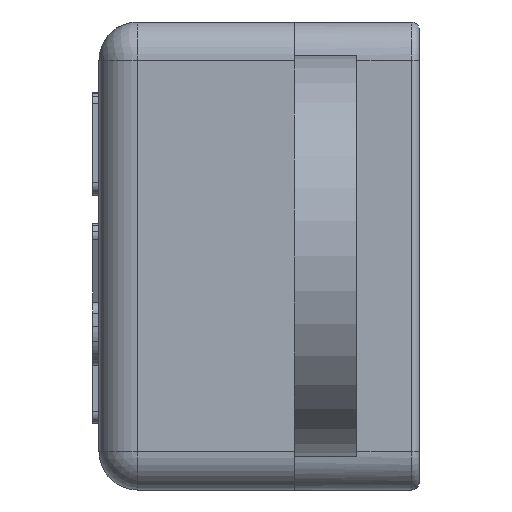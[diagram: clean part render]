
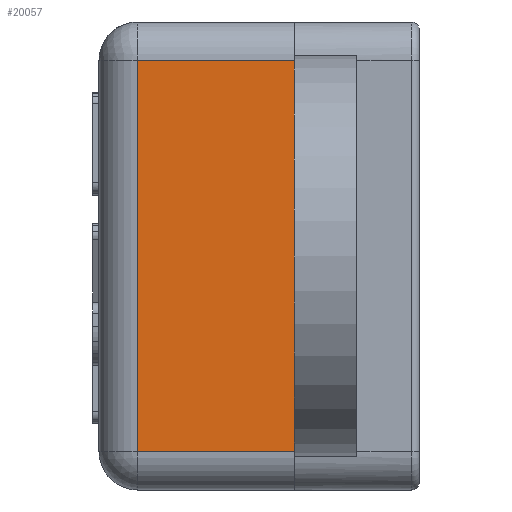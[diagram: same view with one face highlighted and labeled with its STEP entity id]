
A CAD part, left-side view. The second image highlights one B-rep face of the part: STEP entity #20057.
In plain terms, the highlighted planar face has unit normal (-1, 0, 0).
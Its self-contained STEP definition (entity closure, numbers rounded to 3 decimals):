
#803=FACE_OUTER_BOUND('',#1899,.T.);
#1899=EDGE_LOOP('',(#14124,#14125,#14126,#14127));
#3499=LINE('',#29103,#6095);
#3513=LINE('',#29133,#6109);
#3532=LINE('',#29179,#6128);
#3533=LINE('',#29180,#6129);
#6095=VECTOR('',#23302,10.);
#6109=VECTOR('',#23336,10.);
#6128=VECTOR('',#23369,10.);
#6129=VECTOR('',#23370,10.);
#8695=VERTEX_POINT('',#29097);
#8697=VERTEX_POINT('',#29101);
#8703=VERTEX_POINT('',#29132);
#8723=VERTEX_POINT('',#29178);
#10785=EDGE_CURVE('',#8697,#8695,#3499,.T.);
#10800=EDGE_CURVE('',#8695,#8703,#3513,.F.);
#10825=EDGE_CURVE('',#8723,#8697,#3532,.T.);
#10826=EDGE_CURVE('',#8703,#8723,#3533,.T.);
#14124=ORIENTED_EDGE('',*,*,#10785,.F.);
#14125=ORIENTED_EDGE('',*,*,#10825,.F.);
#14126=ORIENTED_EDGE('',*,*,#10826,.F.);
#14127=ORIENTED_EDGE('',*,*,#10800,.F.);
#19143=PLANE('',#21254);
#20057=ADVANCED_FACE('',(#803),#19143,.T.);
#21254=AXIS2_PLACEMENT_3D('',#29177,#23367,#23368);
#23302=DIRECTION('',(0.,-1.,0.));
#23336=DIRECTION('',(0.,0.,1.));
#23367=DIRECTION('center_axis',(-1.,0.,0.));
#23368=DIRECTION('ref_axis',(0.,0.,-1.));
#23369=DIRECTION('',(0.,0.,1.));
#23370=DIRECTION('',(0.,1.,0.));
#29097=CARTESIAN_POINT('',(-11.574,-3.791,2.502));
#29101=CARTESIAN_POINT('',(-11.574,6.409,2.502));
#29103=CARTESIAN_POINT('',(-11.574,8.909,2.502));
#29132=CARTESIAN_POINT('',(-11.574,-3.791,-22.898));
#29133=CARTESIAN_POINT('',(-11.574,-3.791,-1.598));
#29177=CARTESIAN_POINT('Origin',(-11.574,8.909,7.002));
#29178=CARTESIAN_POINT('',(-11.574,6.409,-22.898));
#29179=CARTESIAN_POINT('',(-11.574,6.409,-1.598));
#29180=CARTESIAN_POINT('',(-11.574,8.909,-22.898));
